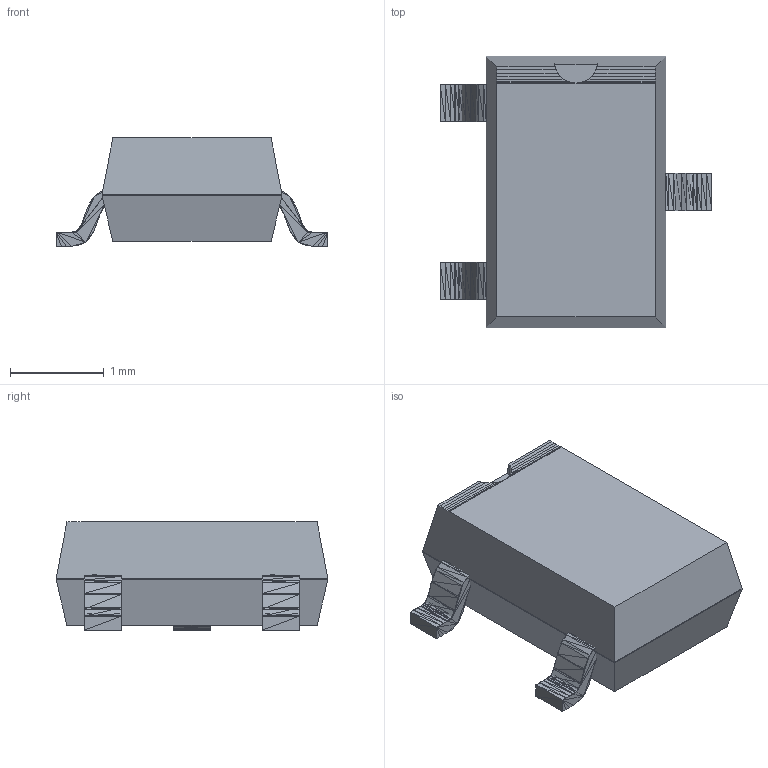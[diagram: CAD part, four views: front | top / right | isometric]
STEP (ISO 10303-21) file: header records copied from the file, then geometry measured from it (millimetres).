
FILE_DESCRIPTION(('shape.step'),'2;1');
FILE_NAME('shape.step','2026-09-25',('tscircuit'),('tscircuit'),'generator','','');
FILE_SCHEMA(('AUTOMOTIVE_DESIGN { 1 0 10303 214 1 1 1 1 }'));
Length unit declared in the file: millimetre
Products named in the file (1): shape
Bounding box: 2.9 x 2.9 x 1.16 mm (x, y, z)
Volume: 5.7 mm3; surface area: 23.7 mm2
Topology: 4 solids, 4 shells, 591 faces, 929 edges, 346 vertices
Faces by surface type: plane 591
Entity records: 11050 total; most frequent: DIRECTION 2113, ORIENTED_EDGE 1858, CARTESIAN_POINT 938, VECTOR 929, LINE 929, EDGE_CURVE 929, AXIS2_PLACEMENT_3D 592, PLANE 591
